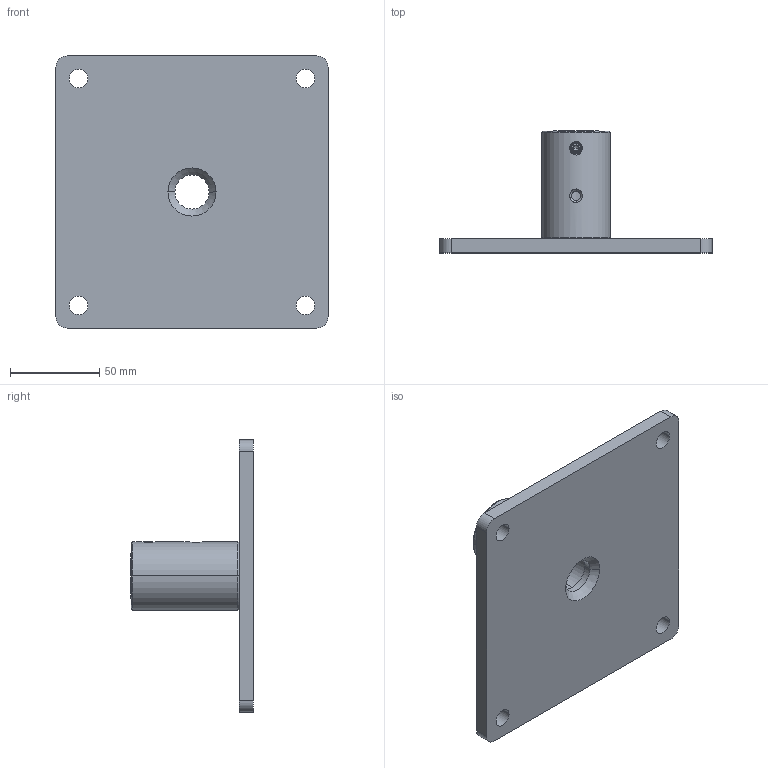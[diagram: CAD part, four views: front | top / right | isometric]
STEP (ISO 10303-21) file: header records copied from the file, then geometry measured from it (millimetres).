
FILE_DESCRIPTION (( 'STEP AP214' ), '1' );
FILE_NAME ('70-0015-00 REV AA, TABLE MOUNT.STEP', '2025-05-12T14:20:35', ( '' ), ( '' ), 'SwSTEP 2.0', 'SolidWorks 2025', '' );
FILE_SCHEMA (( 'AUTOMOTIVE_DESIGN' ));
Length unit declared in the file: inch
Products named in the file (6): 016-008-00, OILITE PLUS BEARING, 0.876 id x 1.002 od x 1.25 lg; 007-036-00, SHSS, 1''4-28, .25L_007-036-00; 71-2113-RX REV AA, HOUSING, BEARING, TALL, 1.5OD_MACHINE; 70-0015-00 REV AA, TABLE MOUNT; 016-007-00, OILITE PLUS BEARING, 0.876 id x 1.002 od x 0.75 lg; 71-0122-RX REV AA, PLATE, PIVOT PLATE
Assembly tree (5 placements, depth 2):
  70-0015-00 REV AA, TABLE MOUNT
    71-2113-RX REV AA, HOUSING, BEARING, TALL, 1.5OD_MACHINE
    71-0122-RX REV AA, PLATE, PIVOT PLATE
    016-007-00, OILITE PLUS BEARING, 0.876 id x 1.002 od x 0.75 lg
    016-008-00, OILITE PLUS BEARING, 0.876 id x 1.002 od x 1.25 lg
    007-036-00, SHSS, 1''4-28, .25L_007-036-00
Bounding box: 152.4 x 68.64 x 152.4 mm (x, y, z)
Volume: 222661.6 mm3; surface area: 72753.3 mm2
Topology: 5 solids, 5 shells, 116 faces, 267 edges, 158 vertices
Faces by surface type: cylinder 42, cone 26, plane 25, torus 20, bspline 3
Entity records: 4921 total; most frequent: CARTESIAN_POINT 2117, DIRECTION 579, ORIENTED_EDGE 526, EDGE_CURVE 263, AXIS2_PLACEMENT_3D 244, VERTEX_POINT 158, EDGE_LOOP 137, CIRCLE 123
